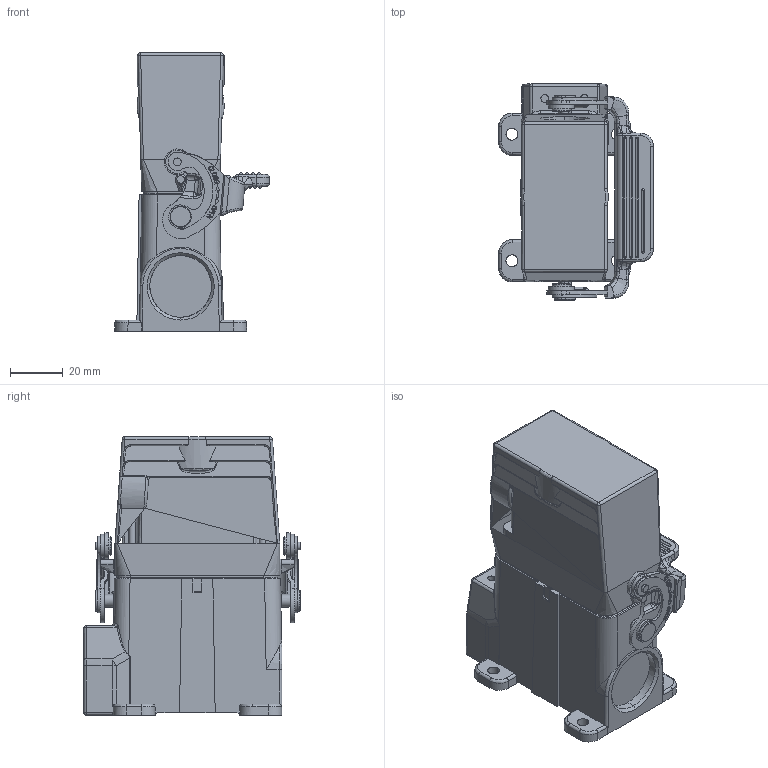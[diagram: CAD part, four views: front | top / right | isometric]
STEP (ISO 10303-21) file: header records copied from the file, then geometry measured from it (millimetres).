
FILE_DESCRIPTION (( 'STEP AP203' ), '1' );
FILE_NAME ('09010003220.STEP', '2022-06-24T06:00:29', ( '' ), ( '' ), 'SwSTEP 2.0', 'SolidWorks 2016', '' );
FILE_SCHEMA (( 'CONFIG_CONTROL_DESIGN' ));
Length unit declared in the file: millimetre
Products named in the file (3): H10A-SGR-M20; 09010003220; H10A-TS-M20
Assembly tree (2 placements, depth 2):
  09010003220
    H10A-SGR-M20
    H10A-TS-M20
Bounding box: 58.61 x 81.95 x 105.6 mm (x, y, z)
Volume: 101934.5 mm3; surface area: 52600.3 mm2
Topology: 4 solids, 17 shells, 1278 faces, 3426 edges, 2215 vertices
Faces by surface type: plane 464, cylinder 417, bspline 358, cone 39
Entity records: 63723 total; most frequent: CARTESIAN_POINT 36738, ORIENTED_EDGE 6784, DIRECTION 3499, EDGE_CURVE 3392, VERTEX_POINT 2215, B_SPLINE_CURVE_WITH_KNOTS 1824, EDGE_LOOP 1375, FACE_OUTER_BOUND 1278
